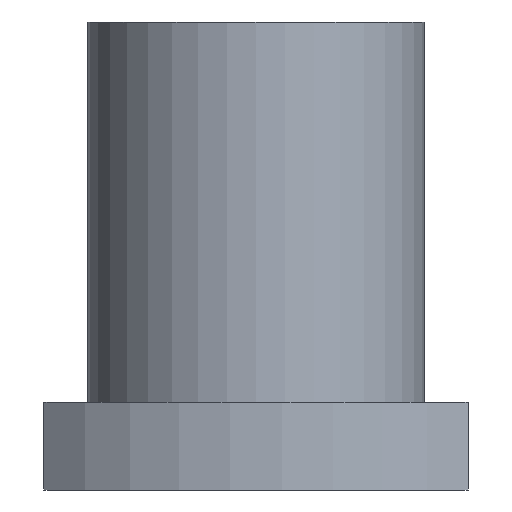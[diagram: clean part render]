
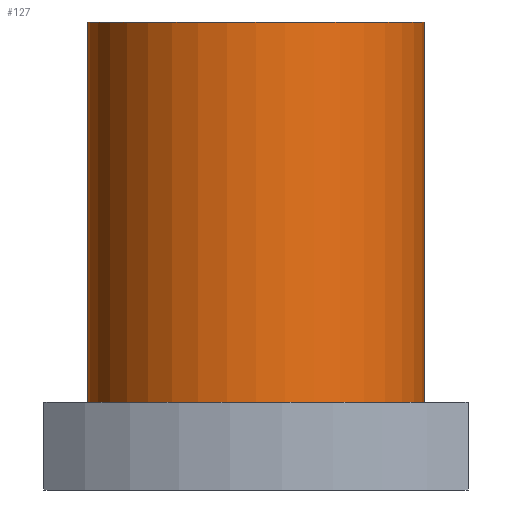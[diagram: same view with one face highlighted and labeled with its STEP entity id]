
A CAD part, front view. The second image highlights one B-rep face of the part: STEP entity #127.
In plain terms, the highlighted cylindrical face has radius 11.5 mm (diameter 23 mm), a partial arc.
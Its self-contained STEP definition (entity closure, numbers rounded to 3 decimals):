
#86=CARTESIAN_POINT('',(9.5,-10.645,0.0));
#87=DIRECTION('',(0.0,0.0,1.0));
#88=DIRECTION('',(-1.0,0.0,0.0));
#89=AXIS2_PLACEMENT_3D('',#86,#87,#88);
#90=CYLINDRICAL_SURFACE('',#89,11.5);
#91=CARTESIAN_POINT('',(-2.,-10.645,6.0));
#92=VERTEX_POINT('',#91);
#93=CARTESIAN_POINT('',(-2.,-10.645,32.0));
#94=VERTEX_POINT('',#93);
#95=CARTESIAN_POINT('',(-2.,-10.645,6.0));
#96=DIRECTION('',(0.0,0.0,1.0));
#97=VECTOR('',#96,26.0);
#98=LINE('',#95,#97);
#99=EDGE_CURVE('',#92,#94,#98,.T.);
#100=ORIENTED_EDGE('',*,*,#99,.F.);
#101=CARTESIAN_POINT('',(21.,-10.645,6.));
#102=VERTEX_POINT('',#101);
#103=CARTESIAN_POINT('',(9.5,-10.645,6.));
#104=DIRECTION('',(0.0,0.0,-1.0));
#105=DIRECTION('',(-1.0,0.0,0.0));
#106=AXIS2_PLACEMENT_3D('',#103,#104,#105);
#107=CIRCLE('',#106,11.5);
#108=EDGE_CURVE('',#102,#92,#107,.T.);
#109=ORIENTED_EDGE('',*,*,#108,.F.);
#110=CARTESIAN_POINT('',(21.,-10.645,32.0));
#111=VERTEX_POINT('',#110);
#112=CARTESIAN_POINT('',(21.,-10.645,32.0));
#113=DIRECTION('',(0.0,0.0,-1.0));
#114=VECTOR('',#113,26.0);
#115=LINE('',#112,#114);
#116=EDGE_CURVE('',#111,#102,#115,.T.);
#117=ORIENTED_EDGE('',*,*,#116,.F.);
#118=CARTESIAN_POINT('',(9.5,-10.645,32.0));
#119=DIRECTION('',(0.0,0.0,-1.0));
#120=DIRECTION('',(-1.0,0.0,0.0));
#121=AXIS2_PLACEMENT_3D('',#118,#119,#120);
#122=CIRCLE('',#121,11.5);
#123=EDGE_CURVE('',#111,#94,#122,.T.);
#124=ORIENTED_EDGE('',*,*,#123,.T.);
#125=EDGE_LOOP('',(#100,#109,#117,#124));
#126=FACE_OUTER_BOUND('',#125,.T.);
#127=ADVANCED_FACE('',(#126),#90,.T.);
